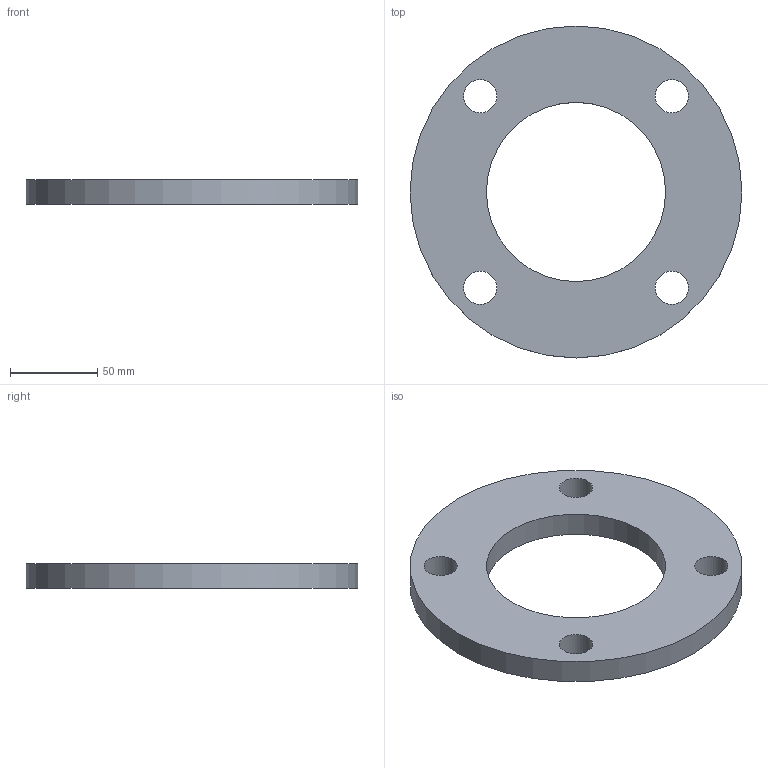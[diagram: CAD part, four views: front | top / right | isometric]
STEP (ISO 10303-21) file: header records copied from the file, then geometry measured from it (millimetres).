
FILE_DESCRIPTION(/* description */ (''),/* implementation_level */ '2;1');
FILE_NAME(/* name */ 'C:\Users\unitec\Documents\Inventor\HP\フランジ\5ksop\5ksop-90.stp',/* time_stamp */ '2016-03-16T15:22:40+09:00',/* author */ ('unitec'),/* organization */ (''),/* preprocessor_version */ 'ST-DEVELOPER v15.2',/* originating_system */ 'Autodesk Inventor 2014',/* authorisation */ '');
FILE_SCHEMA (('AUTOMOTIVE_DESIGN { 1 0 10303 214 3 1 1 }'));
Length unit declared in the file: millimetre
Products named in the file (1): 5ksop-90
Bounding box: 190 x 190 x 14 mm (x, y, z)
Volume: 265314.9 mm3; surface area: 54114 mm2
Topology: 1 solids, 1 shells, 8 faces, 18 edges, 12 vertices
Faces by surface type: cylinder 6, plane 2
Full cylindrical faces by diameter (mm): 19 x4, 102.6 x1, 190 x1
Entity records: 245 total; most frequent: DIRECTION 42, CARTESIAN_POINT 33, EDGE_LOOP 24, ORIENTED_EDGE 24, AXIS2_PLACEMENT_3D 21, FACE_BOUND 18, CIRCLE 12, VERTEX_POINT 12
